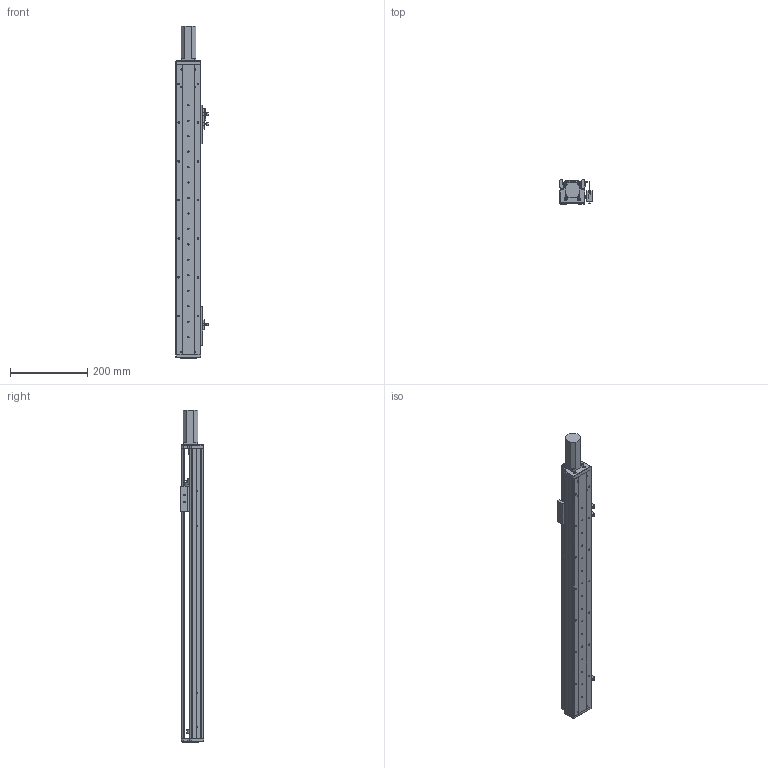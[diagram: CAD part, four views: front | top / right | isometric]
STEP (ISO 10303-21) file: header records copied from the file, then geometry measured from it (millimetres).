
FILE_DESCRIPTION (( 'STEP AP203' ), '1' );
FILE_NAME ('RY60-L1210-300-MK.SLDASM_550.step', '2021-02-20T01:55:59', ( '' ), ( '' ), 'SwSTEP 2.0', 'SolidWorks 2012', '' );
FILE_SCHEMA (( 'CONFIG_CONTROL_DESIGN' ));
Length unit declared in the file: millimetre
Products named in the file (13): RY60-L1210-300-MK.SLDASM_550; RY60綴裔啣; 滅袉蝶18-20; 滅袉蝶18-10; SFN1210螺母(没线割）; 672嫖萇羲壽假蚾釱; 侂狟100W; RY80俋离覜茼え; 覜茼ん672; RY60-300倰第裔啣-MK_550; RY60前盖板100(PCD46-M4); RY60-300倰第菁釱-MK_550; RY60臏賑輸
Assembly tree (17 placements, depth 2):
  RY60-L1210-300-MK.SLDASM_550
    RY60-300倰第菁釱-MK_550
    RY60臏賑輸
    RY60-300倰第裔啣-MK_550
    RY60前盖板100(PCD46-M4)
    672嫖萇羲壽假蚾釱  x2
    覜茼ん672  x3
    RY80俋离覜茼え
    侂狟100W
    滅袉蝶18-20  x2
    滅袉蝶18-10  x2
    RY60綴裔啣
    SFN1210螺母(没线割）
Bounding box: 83.7 x 61 x 859 mm (x, y, z)
Volume: 979903.6 mm3; surface area: 476960.6 mm2
Topology: 18 solids, 18 shells, 1152 faces, 3251 edges, 2102 vertices
Faces by surface type: plane 549, cylinder 529, cone 65, bspline 9
Entity records: 37599 total; most frequent: CARTESIAN_POINT 9024, ORIENTED_EDGE 5762, DIRECTION 5550, EDGE_CURVE 2881, AXIS2_PLACEMENT_3D 1926, VERTEX_POINT 1886, LINE 1698, VECTOR 1698
